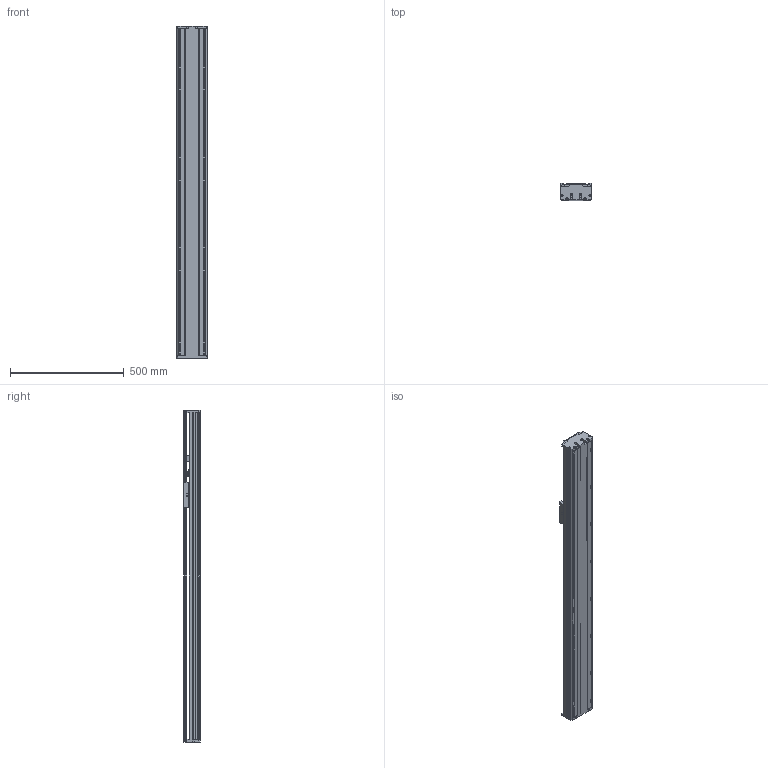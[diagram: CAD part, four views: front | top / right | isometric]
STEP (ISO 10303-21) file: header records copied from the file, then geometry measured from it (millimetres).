
FILE_DESCRIPTION(/* description */ (''),/* implementation_level */ '2;1');
FILE_NAME(/* name */ 'TKA136-FI-1000_asm1.stp',/* time_stamp */ '2016-05-07T10:49:31+08:00',/* author */ (''),/* organization */ (''),/* preprocessor_version */ 'ST-DEVELOPER v15',/* originating_system */ 'SIEMENS PLM Software NX 8.5',/* authorisation */ '');
FILE_SCHEMA (('AUTOMOTIVE_DESIGN { 1 0 10303 214 3 1 1 1 }'));
Length unit declared in the file: millimetre
Products named in the file (3): 100-02; 100-01; TKA136-FI-1000_asm1
Assembly tree (2 placements, depth 2):
  TKA136-FI-1000_asm1
    100-01
    100-02
Bounding box: 136 x 75 x 1459 mm (x, y, z)
Volume: 4366812.4 mm3; surface area: 1657888.1 mm2
Topology: 2 solids, 12 shells, 991 faces, 2906 edges, 1907 vertices
Faces by surface type: cylinder 501, plane 440, cone 50
Full cylindrical faces by diameter (mm): 2.5 x4, 3.3 x8, 4.2 x8, 4.5 x20, 5 x14, 5.5 x14, 8 x20, 10 x9, 10.5 x10, 11.6 x1, 12 x8, 15 x3, 16 x5, 24 x3, 26 x1, 28 x1, 46 x1
Entity records: 35297 total; most frequent: CARTESIAN_POINT 9401, ORIENTED_EDGE 5368, DIRECTION 5270, EDGE_CURVE 2684, AXIS2_PLACEMENT_3D 1960, VERTEX_POINT 1859, LINE 1350, VECTOR 1350
